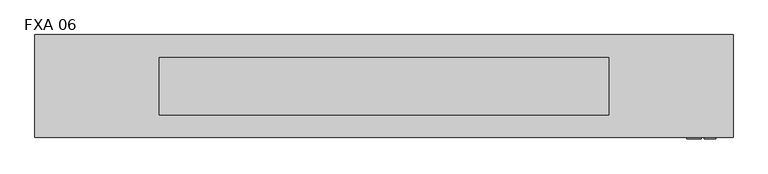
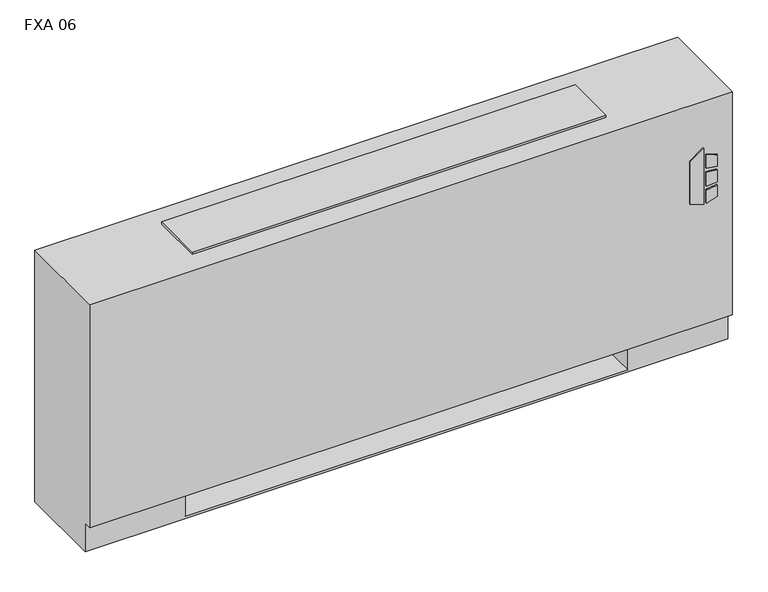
"""IFC4 building model written with IfcOpenShell, lengths in millimetres: proxy geometry, Vertical_Fan_Coil_Unit_-_FXA_-_IEC_-_4-Pipe_TS-FR_RH_2022 : FXA 06."""

import ifcopenshell
import ifcopenshell.guid

model = None  # the IFC model being written
_history = None  # IfcOwnerHistory: only IFC2X3 demands one
_inside = {}  # id of a spatial element -> (the spatial element, [elements in it])
_under = {}  # id of a project, library or spatial element -> (it, [spatial elements below it])
_declared = {}  # id of a project -> (the project, [libraries it declares])
_typed = {}  # id of a type object -> (the type object, [elements of that type])
_made_of = {}  # id of a material, layer set ... -> (it, [elements and type objects made of it])


def new_model(schema):
    """Start an empty IFC model of exactly this schema.

    Asked for "IFC4X3", IfcOpenShell would pick the latest addendum, in which some entities
    have other attributes; the version numbers below select the first issue.
    IFC2X3 requires an IfcOwnerHistory on every rooted entity: one is made here for all.
    """
    global model, _history
    if schema == "IFC4X3":
        model = ifcopenshell.file(schema_version=(4, 3, 0, 0))
    else:
        model = ifcopenshell.file(schema=schema)
    _inside.clear()
    _under.clear()
    _declared.clear()
    _typed.clear()
    _made_of.clear()
    _history = None
    if model.schema == "IFC2X3":
        org = make("IfcOrganization", Name="unknown")
        user = make(
            "IfcPersonAndOrganization",
            ThePerson=make("IfcPerson", FamilyName="unknown"),
            TheOrganization=org,
        )
        app = make(
            "IfcApplication",
            ApplicationDeveloper=org,
            Version="unknown",
            ApplicationFullName="unknown",
            ApplicationIdentifier="unknown",
        )
        _history = make(
            "IfcOwnerHistory",
            OwningUser=user,
            OwningApplication=app,
            ChangeAction="ADDED",
            CreationDate=0,
        )
    return model


def make(cls, **values):
    """One entity of the class cls with the attributes given. An attribute that is None is left unset."""
    return model.create_entity(
        cls, **{name: value for name, value in values.items() if value is not None}
    )


def rooted(cls, **values):
    """An entity with a GlobalId (a new one), such as an element, a storey or a relation."""
    return make(cls, GlobalId=ifcopenshell.guid.new(), OwnerHistory=_history, **values)


def si_unit(unit_type, name, prefix=None):
    """IfcSIUnit, for example si_unit("LENGTHUNIT", "METRE", prefix="MILLI")."""
    return make("IfcSIUnit", UnitType=unit_type, Prefix=prefix, Name=name)


def assignment(units):
    """IfcUnitAssignment: the units of a project."""
    return None if units is None else make("IfcUnitAssignment", Units=units)


def point(xyz):
    """IfcCartesianPoint."""
    return None if xyz is None else make("IfcCartesianPoint", Coordinates=xyz)


def direction(xyz):
    """IfcDirection."""
    return None if xyz is None else make("IfcDirection", DirectionRatios=xyz)


def frame(location, z_axis=None, x_axis=None):
    """IfcAxis2Placement3D, a coordinate frame: its origin and axes. An axis left out is left unset."""
    return make(
        "IfcAxis2Placement3D",
        Location=point(location),
        Axis=direction(z_axis),
        RefDirection=direction(x_axis),
    )


def frame_2d(location, x_axis=None):
    """IfcAxis2Placement2D, a coordinate frame in the plane: its origin and x axis."""
    return make(
        "IfcAxis2Placement2D", Location=point(location), RefDirection=direction(x_axis)
    )


def origin():
    """The frame at (0, 0, 0) with its axes left unset."""
    return frame((0.0, 0.0, 0.0))


def place(relative_to, where):
    """IfcLocalPlacement: puts the frame where relative to a parent placement (None: the world)."""
    return make(
        "IfcLocalPlacement", PlacementRelTo=relative_to, RelativePlacement=where
    )


def context(
    kind, dimensions, precision=None, world=None, true_north=None, identifier=None
):
    """IfcGeometricRepresentationContext, for example the 3D "Model" context."""
    return make(
        "IfcGeometricRepresentationContext",
        ContextIdentifier=identifier,
        ContextType=kind,
        CoordinateSpaceDimension=dimensions,
        Precision=precision,
        WorldCoordinateSystem=world,
        TrueNorth=true_north,
    )


def project(units=None, contexts=None):
    """IfcProject with its units and contexts."""
    return rooted(
        "IfcProject",
        Name="project",
        RepresentationContexts=contexts,
        UnitsInContext=assignment(units),
    )


def spatial(cls, under=None, at=None, **own):
    """A site, building, storey or space (cls), placed at a placement, below another one or the project."""
    s = rooted(cls, ObjectPlacement=at, **own)
    if under is not None:
        _under.setdefault(under.id(), (under, []))[1].append(s)
    return s


def polyline(points):
    """IfcPolyline through the points."""
    return make("IfcPolyline", Points=[point(p) for p in points])


def circle_curve(where, radius):
    """IfcCircle in the frame where."""
    return make("IfcCircle", Position=where, Radius=radius)


def trimmed(basis, trim1, trim2, sense, master):
    """IfcTrimmedCurve: the piece of a basis curve between two trims."""
    return make(
        "IfcTrimmedCurve",
        BasisCurve=basis,
        Trim1=trim1,
        Trim2=trim2,
        SenseAgreement=sense,
        MasterRepresentation=master,
    )


def segment(curve, same_sense, transition):
    """IfcCompositeCurveSegment."""
    return make(
        "IfcCompositeCurveSegment",
        Transition=transition,
        SameSense=same_sense,
        ParentCurve=curve,
    )


def composite_curve(segments, self_intersect=None):
    """IfcCompositeCurve: segments joined end to end."""
    return make("IfcCompositeCurve", Segments=segments, SelfIntersect=self_intersect)


def outline(outer, holes=None, kind="AREA"):
    """IfcArbitraryClosedProfileDef: a profile drawn as a closed curve; with holes, ...WithVoids."""
    if holes is None:
        return make("IfcArbitraryClosedProfileDef", ProfileType=kind, OuterCurve=outer)
    return make(
        "IfcArbitraryProfileDefWithVoids",
        ProfileType=kind,
        OuterCurve=outer,
        InnerCurves=holes,
    )


def extrude(swept, where, along, depth):
    """IfcExtrudedAreaSolid: the profile swept, set in the frame where, extruded along a direction by depth."""
    return make(
        "IfcExtrudedAreaSolid",
        SweptArea=swept,
        Position=where,
        ExtrudedDirection=direction(along),
        Depth=depth,
    )


def shape(context_of_items, identifier, shape_type, items):
    """IfcShapeRepresentation: the items that make up one representation, for example the "Body"."""
    return make(
        "IfcShapeRepresentation",
        ContextOfItems=context_of_items,
        RepresentationIdentifier=identifier,
        RepresentationType=shape_type,
        Items=items,
    )


def source(mapping_origin, context_of_items, identifier, shape_type, items):
    """IfcRepresentationMap: a shape defined once, which mapped items show again and again."""
    return make(
        "IfcRepresentationMap",
        MappingOrigin=mapping_origin,
        MappedRepresentation=shape(context_of_items, identifier, shape_type, items),
    )


def transform(
    local_origin,
    x_axis=None,
    y_axis=None,
    z_axis=None,
    scale=None,
    scale2=None,
    scale3=None,
    uniform=True,
):
    """IfcCartesianTransformationOperator3D, or its non-uniform kind. x_axis, y_axis, z_axis: its Axis1, 2, 3."""
    if uniform:
        return make(
            "IfcCartesianTransformationOperator3D",
            Axis1=direction(x_axis),
            Axis2=direction(y_axis),
            LocalOrigin=point(local_origin),
            Scale=scale,
            Axis3=direction(z_axis),
        )
    return make(
        "IfcCartesianTransformationOperator3DnonUniform",
        Axis1=direction(x_axis),
        Axis2=direction(y_axis),
        LocalOrigin=point(local_origin),
        Scale=scale,
        Axis3=direction(z_axis),
        Scale2=scale2,
        Scale3=scale3,
    )


def mapped(mapping_source, mapping_target):
    """IfcMappedItem: shows the shape of a source again, moved by a transform."""
    return make(
        "IfcMappedItem", MappingSource=mapping_source, MappingTarget=mapping_target
    )


def made_of(thing, what):
    """Note that an element or type object is made of a material, layer set ...; save() writes the relation."""
    if what is not None:
        _made_of.setdefault(what.id(), (what, []))[1].append(thing)
    return thing


def element(
    cls,
    number,
    at=None,
    inside=None,
    cuts=None,
    type_object=None,
    material=None,
    context=None,
    identifier="Body",
    shape_type=None,
    held_by="IfcProductDefinitionShape",
    body=None,
    shapes=None,
    **own,
):
    """One element of the class cls, such as IfcWall. Its Tag is "e" and its number.

    at: its placement. inside: the storey or other place that contains it. cuts: it is an
    opening in that element (IfcRelVoidsElement). A single representation is given by context,
    identifier, shape_type and body (its items); several are given by shapes. held_by: the class
    of the entity that holds the representations. save() writes the other relations.
    """
    e = rooted(cls, Tag="e%d" % number, ObjectPlacement=at, **own)
    if body is not None:
        shapes = [shape(context, identifier, shape_type, body)]
    if shapes is not None:
        e.Representation = make(held_by, Representations=shapes)
    if inside is not None:
        _inside.setdefault(inside.id(), (inside, []))[1].append(e)
    if cuts is not None:
        rooted(
            "IfcRelVoidsElement", RelatingBuildingElement=cuts, RelatedOpeningElement=e
        )
    if type_object is not None:
        _typed.setdefault(type_object.id(), (type_object, []))[1].append(e)
    return made_of(e, material)


def aggregate(whole, parts):
    """IfcRelAggregates: a whole, such as a stair, and the parts it consists of."""
    return rooted("IfcRelAggregates", RelatingObject=whole, RelatedObjects=parts)


def save(model, path):
    """Write the relations noted so far, then the file.

    IfcRelAggregates (storeys below a building ...), IfcRelContainedInSpatialStructure (elements
    in a storey), IfcRelDefinesByType, IfcRelAssociatesMaterial and IfcRelDeclares: one each for
    every whole, place, type object, material and project.
    """
    for whole, parts in _under.values():
        aggregate(whole, parts)
    for where, things in _inside.values():
        rooted(
            "IfcRelContainedInSpatialStructure",
            RelatedElements=things,
            RelatingStructure=where,
        )
    for kind, things in _typed.values():
        rooted("IfcRelDefinesByType", RelatedObjects=things, RelatingType=kind)
    for what, things in _made_of.values():
        rooted("IfcRelAssociatesMaterial", RelatedObjects=things, RelatingMaterial=what)
    for by, libraries in _declared.values():
        rooted("IfcRelDeclares", RelatingContext=by, RelatedDefinitions=libraries)
    model.write(path)


def plane_surface(at):
    """IfcPlane: the flat surface through the origin of the frame at, square to its z axis."""
    return make("IfcPlane", Position=at)


def revolved_surface(curve, axis_point, axis_direction):
    """IfcSurfaceOfRevolution: the curve turned about the line through axis_point along axis_direction."""
    return make(
        "IfcSurfaceOfRevolution",
        SweptCurve=make("IfcArbitraryOpenProfileDef", ProfileType="CURVE", Curve=curve),
        AxisPosition=make("IfcAxis1Placement", Location=point(axis_point), Axis=direction(axis_direction)),
    )


def advanced_brep(points, edges, surfaces, faces):
    """IfcAdvancedBrep: a solid bounded by faces that lie on surfaces and meet in shared edges.

    An edge is (start, end): straight between two places in points (the first is 0);
    or (start, end, curve); or (start, end, curve, False) where it runs against its curve.
    A face is (place in surfaces, loops), or (place, loops, False) where it looks against
    its surface's normal. A loop lists edges by number (the first is 1), with a minus sign
    where the edge is run from its end to its start. The first loop is the outer one.
    """
    corners = [point(p) for p in points]
    vertices = [make("IfcVertexPoint", VertexGeometry=c) for c in corners]
    made = []
    for start, end, *more in edges:
        made.append(
            make(
                "IfcEdgeCurve",
                EdgeStart=vertices[start],
                EdgeEnd=vertices[end],
                EdgeGeometry=more[0] if more else make("IfcPolyline", Points=[corners[start], corners[end]]),
                SameSense=more[1] if len(more) > 1 else True,
            )
        )
    hull = []
    for where, loops, *sense in faces:
        bounds = []
        for j, loop in enumerate(loops):
            ring = [make("IfcOrientedEdge", EdgeElement=made[abs(k) - 1], Orientation=k > 0) for k in loop]
            bounds.append(
                make(
                    "IfcFaceOuterBound" if j == 0 else "IfcFaceBound",
                    Bound=make("IfcEdgeLoop", EdgeList=ring),
                    Orientation=True,
                )
            )
        hull.append(make("IfcAdvancedFace", Bounds=bounds, FaceSurface=surfaces[where], SameSense=sense[0] if sense else True))
    return make("IfcAdvancedBrep", Outer=make("IfcClosedShell", CfsFaces=hull))


def fxa_06_2113a199(model_context):
    return source(origin(), model_context, "Body", "SolidModel", [
        extrude(outline(polyline([(391.6086829, 823.9868862), (381.6606126, 856.1602728), (523.831537, 856.1602728), (500.8095309, 823.9868862), (391.6086829, 823.9868862)])), frame((0.0, 12.7, 0.0), z_axis=(0.0, 1.0, 0.0), x_axis=(0.0, 0.0, 1.0)), (0.0, 0.0, 1.0), 3.175),
        extrude(outline(polyline([(470.6079683, 862.9186058), (467.4055757, 889.0), (496.6344168, 889.0), (504.6988318, 862.9186058), (470.6079683, 862.9186058)])), frame((0.0, 12.7, 0.0), z_axis=(0.0, 1.0, 0.0), x_axis=(0.0, 0.0, 1.0)), (0.0, 0.0, 1.0), 3.175),
        extrude(outline(polyline([(418.7444414, 889.0), (415.0789404, 862.9186058), (381.6606126, 862.9186058), (390.2948498, 889.0), (418.7444414, 889.0)])), frame((0.0, 12.7, 0.0), z_axis=(0.0, 1.0, 0.0), x_axis=(0.0, 0.0, 1.0)), (0.0, 0.0, 1.0), 3.175),
        extrude(outline(polyline([(458.0596028, 889.0), (460.3414292, 862.9186058), (424.4038806, 862.9186058), (427.1451456, 889.0), (458.0596028, 889.0)])), frame((0.0, 12.7, 0.0), z_axis=(0.0, 1.0, 0.0), x_axis=(0.0, 0.0, 1.0)), (0.0, 0.0, 1.0), 3.175),
        extrude(outline(polyline([(-501.65, 81.534), (-501.65, 223.266), (-381.0, 223.266), (-381.0, 81.534), (-501.65, 81.534)])), frame((0.0, 0.0, 327.025), z_axis=(0.0, 0.0, 1.0), x_axis=(1.0, 0.0, 0.0)), (0.0, 0.0, 1.0), 260.35),
        extrude(outline(composite_curve([segment(trimmed(circle_curve(frame_2d((749.3, 130.175)), 9.525), [point((739.775, 130.175))], [point((758.825, 130.175))], False, "CARTESIAN"), True, "CONTINUOUS"), segment(trimmed(circle_curve(frame_2d((749.3, 130.175)), 9.525), [point((758.825, 130.175))], [point((739.775, 130.175))], False, "CARTESIAN"), True, "CONTINUOUS")], self_intersect=False)), frame((0.0, 0.0, 101.6), z_axis=(0.0, 0.0, 1.0), x_axis=(1.0, 0.0, 0.0)), (0.0, 0.0, 1.0), 25.4),
        extrude(outline(polyline([(844.55, 196.85), (844.55, 63.5), (685.8, 63.5), (685.8, 196.85), (844.55, 196.85)])), frame((0.0, 0.0, 127.0), z_axis=(0.0, 0.0, 1.0), x_axis=(1.0, 0.0, 0.0)), (0.0, 0.0, 1.0), 50.8),
        extrude(outline(composite_curve([segment(trimmed(circle_curve(frame_2d((107.95, 457.2)), 7.9375), [point((107.95, 465.1375))], [point((107.95, 449.2625))], False, "CARTESIAN"), True, "CONTINUOUS"), segment(trimmed(circle_curve(frame_2d((107.95, 457.2)), 7.9375), [point((107.95, 449.2625))], [point((107.95, 465.1375))], False, "CARTESIAN"), True, "CONTINUOUS")], self_intersect=False)), frame((685.8, 0.0, 0.0), z_axis=(1.0, 0.0, 0.0), x_axis=(0.0, 1.0, 0.0)), (0.0, 0.0, 1.0), 50.8),
        extrude(outline(composite_curve([segment(trimmed(circle_curve(frame_2d((155.575, 431.8)), 7.9375), [point((155.575, 439.7375))], [point((155.575, 423.8625))], False, "CARTESIAN"), True, "CONTINUOUS"), segment(trimmed(circle_curve(frame_2d((155.575, 431.8)), 7.9375), [point((155.575, 423.8625))], [point((155.575, 439.7375))], False, "CARTESIAN"), True, "CONTINUOUS")], self_intersect=False)), frame((685.8, 0.0, 0.0), z_axis=(1.0, 0.0, 0.0), x_axis=(0.0, 1.0, 0.0)), (0.0, 0.0, 1.0), 50.8),
        extrude(outline(composite_curve([segment(trimmed(circle_curve(frame_2d((130.175, 554.99)), 7.9502), [point((130.175, 562.9402))], [point((130.175, 547.0398))], False, "CARTESIAN"), True, "CONTINUOUS"), segment(trimmed(circle_curve(frame_2d((130.175, 554.99)), 7.9502), [point((130.175, 547.0398))], [point((130.175, 562.9402))], False, "CARTESIAN"), True, "CONTINUOUS")], self_intersect=False)), frame((685.8, 0.0, 0.0), z_axis=(1.0, 0.0, 0.0), x_axis=(0.0, 1.0, 0.0)), (0.0, 0.0, 1.0), 50.8),
        extrude(outline(composite_curve([segment(trimmed(circle_curve(frame_2d((53.975, 416.56)), 7.9502), [point((53.975, 424.5102))], [point((53.975, 408.6098))], False, "CARTESIAN"), True, "CONTINUOUS"), segment(trimmed(circle_curve(frame_2d((53.975, 416.56)), 7.9502), [point((53.975, 408.6098))], [point((53.975, 424.5102))], False, "CARTESIAN"), True, "CONTINUOUS")], self_intersect=False)), frame((685.8, 0.0, 0.0), z_axis=(1.0, 0.0, 0.0), x_axis=(0.0, 1.0, 0.0)), (0.0, 0.0, 1.0), 50.8),
        advanced_brep(
        [(927.1, 244.475, 641.35), (-622.3, 244.475, 641.35), (-622.3, 15.875, 641.35), (927.1, 15.875, 641.35), (-622.3, 244.475, 0.0), (927.1, 244.475, 0.0), (927.1, 34.925, 0.0), (-622.3, 34.925, 0.0), (685.8, 244.475, 73.025), (914.4, 244.475, 73.025), (914.4, 244.475, 628.65), (685.8, 244.475, 628.65), (685.8, 244.475, 414.8650565), (714.375, 244.475, 414.8650565), (714.375, 244.475, 385.2349435), (685.8, 244.475, 385.2349435), (685.8, 244.475, 287.3375), (714.375, 244.475, 287.3375), (714.375, 244.475, 258.7625), (685.8, 244.475, 258.7625), (685.8, 244.475, 141.2875), (714.375, 244.475, 141.2875), (714.375, 244.475, 112.7125), (685.8, 244.475, 112.7125), (-381.0, 244.475, 628.65), (-609.6, 244.475, 628.65), (-609.6, 244.475, 73.025), (-381.0, 244.475, 73.025), (-381.0, 244.475, 112.7125), (-409.575, 244.475, 112.7125), (-409.575, 244.475, 141.2875), (-381.0, 244.475, 141.2875), (-381.0, 244.475, 258.7625), (-409.575, 244.475, 258.7625), (-409.575, 244.475, 287.3375), (-381.0, 244.475, 287.3375), (-381.0, 244.475, 385.2349435), (-409.575, 244.475, 385.2349435), (-409.575, 244.475, 414.8650565), (-381.0, 244.475, 414.8650565), (704.0626, 244.475, 127.0), (692.9374, 244.475, 127.0), (704.0626, 244.475, 400.05), (692.9374, 244.475, 400.05), (704.0626, 244.475, 273.05), (692.9374, 244.475, 273.05), (-388.1374, 244.475, 127.0), (-399.2626, 244.475, 127.0), (-388.1374, 244.475, 273.05), (-399.2626, 244.475, 273.05), (-388.1374, 244.475, 400.05), (-399.2626, 244.475, 400.05), (-622.3, 34.925, 73.025), (-622.3, 15.875, 73.025), (927.1, 15.875, 73.025), (927.1, 34.925, 73.025), (-381.0, 34.925, 73.025), (-381.0, 219.075, 73.025), (685.8, 219.075, 73.025), (685.8, 34.925, 73.025), (685.8, 34.925, 6.35), (-381.0, 34.925, 6.35), (685.8, 41.275, 628.65), (914.4, 41.275, 628.65), (914.4, 41.275, 73.025), (685.8, 41.275, 73.025), (-381.0, 41.275, 628.65), (-381.0, 41.275, 73.025), (-609.6, 41.275, 73.025), (-609.6, 41.275, 628.65), (685.8, 219.075, 73.025), (685.8, 238.125, 112.7125), (685.8, 238.125, 141.2875), (685.8, 238.125, 258.7625), (685.8, 238.125, 287.3375), (685.8, 238.125, 385.2349435), (685.8, 238.125, 414.8650565), (-381.0, 219.075, 73.025), (-381.0, 238.125, 414.8650565), (-381.0, 238.125, 385.2349435), (-381.0, 238.125, 287.3375), (-381.0, 238.125, 258.7625), (-381.0, 238.125, 141.2875), (-381.0, 238.125, 112.7125), (-381.0, 219.075, 6.35), (685.8, 219.075, 6.35), (714.375, 238.125, 112.7125), (714.375, 238.125, 141.2875), (692.9374, 238.125, 127.0), (704.0626, 238.125, 127.0), (714.375, 238.125, 258.7625), (714.375, 238.125, 287.3375), (692.9374, 238.125, 273.05), (704.0626, 238.125, 273.05), (714.375, 238.125, 385.2349435), (714.375, 238.125, 414.8650565), (692.9374, 238.125, 400.05), (704.0626, 238.125, 400.05), (-409.575, 238.125, 141.2875), (-409.575, 238.125, 112.7125), (-399.2626, 238.125, 127.0), (-388.1374, 238.125, 127.0), (-409.575, 238.125, 287.3375), (-409.575, 238.125, 258.7625), (-399.2626, 238.125, 273.05), (-388.1374, 238.125, 273.05), (-409.575, 238.125, 414.8650565), (-409.575, 238.125, 385.2349435), (-399.2626, 238.125, 400.05), (-388.1374, 238.125, 400.05)],
        [
            (0, 1),
            (1, 2),
            (2, 3),
            (3, 0),
            (4, 5),
            (5, 6),
            (6, 7),
            (7, 4),
            (0, 5),
            (4, 1),
            (8, 9),
            (9, 10),
            (10, 11),
            (11, 12),
            (12, 13),
            (13, 14),
            (14, 15),
            (15, 16),
            (16, 17),
            (17, 18),
            (18, 19),
            (19, 20),
            (20, 21),
            (21, 22),
            (22, 23),
            (23, 8),
            (24, 25),
            (25, 26),
            (26, 27),
            (27, 28),
            (28, 29),
            (29, 30),
            (30, 31),
            (31, 32),
            (32, 33),
            (33, 34),
            (34, 35),
            (35, 36),
            (36, 37),
            (37, 38),
            (38, 39),
            (39, 24),
            (40, 41, circle_curve(frame((698.5, 244.475, 127.0), z_axis=(0.0, -1.0, 0.0), x_axis=(-1.0, 0.0, 0.0)), 5.5626)),
            (41, 40, circle_curve(frame((698.5, 244.475, 127.0), z_axis=(0.0, -1.0, 0.0), x_axis=(-1.0, 0.0, 0.0)), 5.5626)),
            (42, 43, circle_curve(frame((698.5, 244.475, 400.05), z_axis=(0.0, -1.0, 0.0), x_axis=(-1.0, 0.0, 0.0)), 5.5626)),
            (43, 42, circle_curve(frame((698.5, 244.475, 400.05), z_axis=(0.0, -1.0, 0.0), x_axis=(-1.0, 0.0, 0.0)), 5.5626)),
            (44, 45, circle_curve(frame((698.5, 244.475, 273.05), z_axis=(0.0, -1.0, 0.0), x_axis=(-1.0, 0.0, 0.0)), 5.5626)),
            (45, 44, circle_curve(frame((698.5, 244.475, 273.05), z_axis=(0.0, -1.0, 0.0), x_axis=(-1.0, 0.0, 0.0)), 5.5626)),
            (46, 47, circle_curve(frame((-393.7, 244.475, 127.0), z_axis=(0.0, -1.0, 0.0), x_axis=(-1.0, 0.0, 0.0)), 5.5626)),
            (47, 46, circle_curve(frame((-393.7, 244.475, 127.0), z_axis=(0.0, -1.0, 0.0), x_axis=(-1.0, 0.0, 0.0)), 5.5626)),
            (48, 49, circle_curve(frame((-393.7, 244.475, 273.05), z_axis=(0.0, -1.0, 0.0), x_axis=(-1.0, 0.0, 0.0)), 5.5626)),
            (49, 48, circle_curve(frame((-393.7, 244.475, 273.05), z_axis=(0.0, -1.0, 0.0), x_axis=(-1.0, 0.0, 0.0)), 5.5626)),
            (50, 51, circle_curve(frame((-393.7, 244.475, 400.05), z_axis=(0.0, -1.0, 0.0), x_axis=(-1.0, 0.0, 0.0)), 5.5626)),
            (51, 50, circle_curve(frame((-393.7, 244.475, 400.05), z_axis=(0.0, -1.0, 0.0), x_axis=(-1.0, 0.0, 0.0)), 5.5626)),
            (7, 52),
            (52, 53),
            (53, 2),
            (53, 54),
            (54, 3),
            (54, 55),
            (55, 6),
            (52, 56),
            (56, 57),
            (57, 58),
            (58, 59),
            (59, 55),
            (59, 60),
            (60, 61),
            (61, 56),
            (62, 63),
            (63, 64),
            (64, 65),
            (65, 62),
            (66, 67),
            (67, 68),
            (68, 69),
            (69, 66),
            (65, 70),
            (70, 8),
            (23, 71),
            (71, 72),
            (72, 20),
            (19, 73),
            (73, 74),
            (74, 16),
            (15, 75),
            (75, 76),
            (76, 12),
            (11, 62),
            (64, 9),
            (63, 10),
            (69, 25),
            (24, 66),
            (68, 26),
            (67, 77),
            (77, 27),
            (39, 78),
            (78, 79),
            (79, 36),
            (35, 80),
            (80, 81),
            (81, 32),
            (31, 82),
            (82, 83),
            (83, 28),
            (57, 84),
            (84, 85),
            (85, 58),
            (85, 60),
            (84, 61),
            (71, 86),
            (86, 87),
            (87, 72),
            (88, 89, circle_curve(frame((698.5, 238.125, 127.0), z_axis=(0.0, 1.0, 0.0), x_axis=(-1.0, 0.0, 0.0)), 5.5626)),
            (89, 88, circle_curve(frame((698.5, 238.125, 127.0), z_axis=(0.0, 1.0, 0.0), x_axis=(-1.0, 0.0, 0.0)), 5.5626)),
            (73, 90),
            (90, 91),
            (91, 74),
            (92, 93, circle_curve(frame((698.5, 238.125, 273.05), z_axis=(0.0, 1.0, 0.0), x_axis=(-1.0, 0.0, 0.0)), 5.5626)),
            (93, 92, circle_curve(frame((698.5, 238.125, 273.05), z_axis=(0.0, 1.0, 0.0), x_axis=(-1.0, 0.0, 0.0)), 5.5626)),
            (75, 94),
            (94, 95),
            (95, 76),
            (96, 97, circle_curve(frame((698.5, 238.125, 400.05), z_axis=(0.0, 1.0, 0.0), x_axis=(-1.0, 0.0, 0.0)), 5.5626)),
            (97, 96, circle_curve(frame((698.5, 238.125, 400.05), z_axis=(0.0, 1.0, 0.0), x_axis=(-1.0, 0.0, 0.0)), 5.5626)),
            (98, 99),
            (99, 83),
            (82, 98),
            (100, 101, circle_curve(frame((-393.7, 238.125, 127.0), z_axis=(0.0, 1.0, 0.0), x_axis=(-1.0, 0.0, 0.0)), 5.5626)),
            (101, 100, circle_curve(frame((-393.7, 238.125, 127.0), z_axis=(0.0, 1.0, 0.0), x_axis=(-1.0, 0.0, 0.0)), 5.5626)),
            (102, 103),
            (103, 81),
            (80, 102),
            (104, 105, circle_curve(frame((-393.7, 238.125, 273.05), z_axis=(0.0, 1.0, 0.0), x_axis=(-1.0, 0.0, 0.0)), 5.5626)),
            (105, 104, circle_curve(frame((-393.7, 238.125, 273.05), z_axis=(0.0, 1.0, 0.0), x_axis=(-1.0, 0.0, 0.0)), 5.5626)),
            (106, 107),
            (107, 79),
            (78, 106),
            (108, 109, circle_curve(frame((-393.7, 238.125, 400.05), z_axis=(0.0, 1.0, 0.0), x_axis=(-1.0, 0.0, 0.0)), 5.5626)),
            (109, 108, circle_curve(frame((-393.7, 238.125, 400.05), z_axis=(0.0, 1.0, 0.0), x_axis=(-1.0, 0.0, 0.0)), 5.5626)),
            (87, 21),
            (86, 22),
            (91, 17),
            (90, 18),
            (95, 13),
            (94, 14),
            (30, 98),
            (99, 29),
            (34, 102),
            (103, 33),
            (38, 106),
            (107, 37),
            (88, 41),
            (40, 89),
            (96, 43),
            (42, 97),
            (92, 45),
            (44, 93),
            (100, 47),
            (46, 101),
            (104, 49),
            (48, 105),
            (108, 51),
            (50, 109),
        ],
        [
            plane_surface(frame((-622.3, 244.475, 641.35), z_axis=(0.0, 0.0, 1.0), x_axis=(-1.0, 0.0, 0.0))),
            plane_surface(frame((-622.3, 244.475, 0.0), z_axis=(0.0, 0.0, -1.0), x_axis=(1.0, 0.0, 0.0))),
            plane_surface(frame((927.1, 244.475, 641.35), z_axis=(0.0, 1.0, 0.0), x_axis=(0.0, 0.0, -1.0))),
            plane_surface(frame((-622.3, 244.475, 641.35), z_axis=(-1.0, 0.0, 0.0), x_axis=(0.0, 0.0, -1.0))),
            plane_surface(frame((-622.3, 15.875, 641.35), z_axis=(0.0, -1.0, 0.0), x_axis=(0.0, 0.0, -1.0))),
            plane_surface(frame((927.1, 15.875, 641.35), z_axis=(1.0, 0.0, 0.0), x_axis=(0.0, 0.0, -1.0))),
            plane_surface(frame((-622.3, 15.875, 73.025), z_axis=(0.0, 0.0, -1.0), x_axis=(1.0, 0.0, 0.0))),
            plane_surface(frame((-622.3, 34.925, 73.025), z_axis=(0.0, -1.0, 0.0), x_axis=(1.0, 0.0, 0.0))),
            plane_surface(frame((685.8, 41.275, 628.65), z_axis=(0.0, 1.0, 0.0), x_axis=(0.0, 0.0, -1.0))),
            plane_surface(frame((685.8, 41.275, 628.65), z_axis=(1.0, 0.0, 0.0), x_axis=(0.0, 1.0, 0.0))),
            plane_surface(frame((685.8, 41.275, 73.025), z_axis=(0.0, 0.0, 1.0), x_axis=(0.0, 1.0, 0.0))),
            plane_surface(frame((914.4, 41.275, 73.025), z_axis=(-1.0, 0.0, 0.0), x_axis=(0.0, 1.0, 0.0))),
            plane_surface(frame((914.4, 41.275, 628.65), z_axis=(0.0, 0.0, -1.0), x_axis=(0.0, 1.0, 0.0))),
            plane_surface(frame((-381.0, 41.275, 628.65), z_axis=(0.0, 0.0, -1.0), x_axis=(0.0, 1.0, 0.0))),
            plane_surface(frame((-609.6, 41.275, 628.65), z_axis=(1.0, 0.0, 0.0), x_axis=(0.0, 1.0, 0.0))),
            plane_surface(frame((-609.6, 41.275, 73.025), z_axis=(0.0, 0.0, 1.0), x_axis=(0.0, 1.0, 0.0))),
            plane_surface(frame((-381.0, 41.275, 73.025), z_axis=(-1.0, 0.0, 0.0), x_axis=(0.0, 1.0, 0.0))),
            plane_surface(frame((685.8, 219.075, 73.025), z_axis=(0.0, -1.0, 0.0), x_axis=(0.0, 0.0, -1.0))),
            plane_surface(frame((685.8, 219.075, 73.025), z_axis=(-1.0, 0.0, 0.0), x_axis=(0.0, -1.0, 0.0))),
            plane_surface(frame((685.8, 219.075, 6.35), z_axis=(0.0, 0.0, 1.0), x_axis=(0.0, -1.0, 0.0))),
            plane_surface(frame((-381.0, 219.075, 6.35), z_axis=(1.0, 0.0, 0.0), x_axis=(0.0, -1.0, 0.0))),
            plane_surface(frame((714.375, 238.125, 141.2875), z_axis=(0.0, -1.0, 0.0), x_axis=(-1.0, 0.0, 0.0))),
            plane_surface(frame((685.8, 244.475, 141.2875), z_axis=(0.0, 0.0, 1.0), x_axis=(0.0, -1.0, 0.0))),
            plane_surface(frame((714.375, 244.475, 141.2875), z_axis=(1.0, 0.0, 0.0), x_axis=(0.0, -1.0, 0.0))),
            plane_surface(frame((714.375, 244.475, 112.7125), z_axis=(0.0, 0.0, -1.0), x_axis=(0.0, -1.0, 0.0))),
            plane_surface(frame((685.8, 244.475, 287.3375), z_axis=(0.0, 0.0, 1.0), x_axis=(0.0, -1.0, 0.0))),
            plane_surface(frame((714.375, 244.475, 287.3375), z_axis=(1.0, 0.0, 0.0), x_axis=(0.0, -1.0, 0.0))),
            plane_surface(frame((714.375, 244.475, 258.7625), z_axis=(0.0, 0.0, -1.0), x_axis=(0.0, -1.0, 0.0))),
            plane_surface(frame((685.8, 244.475, 414.8650565), z_axis=(0.0, 0.0, 1.0), x_axis=(0.0, -1.0, 0.0))),
            plane_surface(frame((714.375, 244.475, 414.8650565), z_axis=(1.0, 0.0, 0.0), x_axis=(0.0, -1.0, 0.0))),
            plane_surface(frame((714.375, 244.475, 385.2349435), z_axis=(0.0, 0.0, -1.0), x_axis=(0.0, -1.0, 0.0))),
            plane_surface(frame((-409.575, 244.475, 141.2875), z_axis=(0.0, 0.0, 1.0), x_axis=(0.0, -1.0, 0.0))),
            plane_surface(frame((-381.0, 244.475, 112.7125), z_axis=(0.0, 0.0, -1.0), x_axis=(0.0, -1.0, 0.0))),
            plane_surface(frame((-409.575, 244.475, 112.7125), z_axis=(-1.0, 0.0, 0.0), x_axis=(0.0, -1.0, 0.0))),
            plane_surface(frame((-409.575, 244.475, 287.3375), z_axis=(0.0, 0.0, 1.0), x_axis=(0.0, -1.0, 0.0))),
            plane_surface(frame((-381.0, 244.475, 258.7625), z_axis=(0.0, 0.0, -1.0), x_axis=(0.0, -1.0, 0.0))),
            plane_surface(frame((-409.575, 244.475, 258.7625), z_axis=(-1.0, 0.0, 0.0), x_axis=(0.0, -1.0, 0.0))),
            plane_surface(frame((-409.575, 244.475, 414.8650565), z_axis=(0.0, 0.0, 1.0), x_axis=(0.0, -1.0, 0.0))),
            plane_surface(frame((-381.0, 244.475, 385.2349435), z_axis=(0.0, 0.0, -1.0), x_axis=(0.0, -1.0, 0.0))),
            plane_surface(frame((-409.575, 244.475, 385.2349435), z_axis=(-1.0, 0.0, 0.0), x_axis=(0.0, -1.0, 0.0))),
            revolved_surface(polyline([(692.9374, 238.125, 127.0), (692.9374, 244.475, 127.0)]), (698.5, 244.475, 127.0), (0.0, -1.0, 0.0)),
            revolved_surface(polyline([(692.9374, 238.125, 400.05), (692.9374, 244.475, 400.05)]), (698.5, 244.475, 400.05), (0.0, -1.0, 0.0)),
            revolved_surface(polyline([(692.9374, 238.125, 273.05), (692.9374, 244.475, 273.05)]), (698.5, 244.475, 273.05), (0.0, -1.0, 0.0)),
            revolved_surface(polyline([(-399.26259999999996, 238.125, 127.0), (-399.26259999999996, 244.475, 127.0)]), (-393.7, 244.475, 127.0), (0.0, -1.0, 0.0)),
            revolved_surface(polyline([(-399.26259999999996, 238.125, 273.05), (-399.26259999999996, 244.475, 273.05)]), (-393.7, 244.475, 273.05), (0.0, -1.0, 0.0)),
            revolved_surface(polyline([(-399.26259999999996, 238.125, 400.05), (-399.26259999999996, 244.475, 400.05)]), (-393.7, 244.475, 400.05), (0.0, -1.0, 0.0)),
        ],
        [
            (0, [[1, 2, 3, 4]]),
            (1, [[5, 6, 7, 8]]),
            (2, [[-1, 9, -5, 10], [11, 12, 13, 14, 15, 16, 17, 18, 19, 20, 21, 22, 23, 24, 25, 26], [27, 28, 29, 30, 31, 32, 33, 34, 35, 36, 37, 38, 39, 40, 41, 42], [43, 44], [45, 46], [47, 48], [49, 50], [51, 52], [53, 54]]),
            (3, [[-2, -10, -8, 55, 56, 57]]),
            (4, [[-3, -57, 58, 59]]),
            (5, [[-4, -59, 60, 61, -6, -9]]),
            (6, [[-56, 62, 63, 64, 65, 66, -60, -58]]),
            (7, [[-7, -61, -66, 67, 68, 69, -62, -55]]),
            (8, [[70, 71, 72, 73]]),
            (8, [[74, 75, 76, 77]]),
            (9, [[-73, 78, 79, -26, 80, 81, 82, -22, 83, 84, 85, -18, 86, 87, 88, -14, 89]]),
            (10, [[-72, 90, -11, -79, -78]]),
            (11, [[-71, 91, -12, -90]]),
            (12, [[-70, -89, -13, -91]]),
            (13, [[-77, 92, -27, 93]]),
            (14, [[-76, 94, -28, -92]]),
            (15, [[-75, 95, 96, -29, -94]]),
            (16, [[-74, -93, -42, 97, 98, 99, -38, 100, 101, 102, -34, 103, 104, 105, -30, -96, -95]]),
            (17, [[-64, 106, 107, 108]]),
            (18, [[-108, 109, -67, -65]]),
            (19, [[-107, 110, -68, -109]]),
            (20, [[-106, -63, -69, -110]]),
            (21, [[111, 112, 113, -81], [114, 115]]),
            (21, [[116, 117, 118, -84], [119, 120]]),
            (21, [[121, 122, 123, -87], [124, 125]]),
            (21, [[126, 127, -104, 128], [129, 130]]),
            (21, [[131, 132, -101, 133], [134, 135]]),
            (21, [[136, 137, -98, 138], [139, 140]]),
            (22, [[-113, 141, -23, -82]]),
            (23, [[-112, 142, -24, -141]]),
            (24, [[-111, -80, -25, -142]]),
            (25, [[-118, 143, -19, -85]]),
            (26, [[-117, 144, -20, -143]]),
            (27, [[-116, -83, -21, -144]]),
            (28, [[-123, 145, -15, -88]]),
            (29, [[-122, 146, -16, -145]]),
            (30, [[-121, -86, -17, -146]]),
            (31, [[-128, -103, -33, 147]]),
            (32, [[-127, 148, -31, -105]]),
            (33, [[-126, -147, -32, -148]]),
            (34, [[-133, -100, -37, 149]]),
            (35, [[-132, 150, -35, -102]]),
            (36, [[-131, -149, -36, -150]]),
            (37, [[-138, -97, -41, 151]]),
            (38, [[-137, 152, -39, -99]]),
            (39, [[-136, -151, -40, -152]]),
            (40, [[153, -43, 154, -114]]),
            (40, [[-153, -115, -154, -44]]),
            (41, [[155, -45, 156, -124]]),
            (41, [[-155, -125, -156, -46]]),
            (42, [[157, -47, 158, -119]]),
            (42, [[-157, -120, -158, -48]]),
            (43, [[159, -49, 160, -129]]),
            (43, [[-159, -130, -160, -50]]),
            (44, [[161, -51, 162, -134]]),
            (44, [[-161, -135, -162, -52]]),
            (45, [[163, -53, 164, -139]]),
            (45, [[-163, -140, -164, -54]]),
        ],
    ),
        extrude(outline(polyline([(650.875, 193.675), (650.875, 66.675), (-346.075, 66.675), (-346.075, 193.675), (650.875, 193.675)])), frame((0.0, 0.0, 641.35), z_axis=(0.0, 0.0, 1.0), x_axis=(1.0, 0.0, 0.0)), (0.0, 0.0, 1.0), 6.35),
    ])


if __name__ == "__main__":
    model = new_model("IFC4")
    model_context = context("Model", 3, world=origin())
    ifc_project = project(units=[si_unit("LENGTHUNIT", "METRE", prefix="MILLI")], contexts=[model_context])
    site = spatial("IfcSite", under=ifc_project)
    building = spatial("IfcBuilding", under=site)
    placement = place(None, origin())
    fxa_06_shape = fxa_06_2113a199(model_context)
    element("IfcBuildingElementProxy", 1, Name="Vertical_Fan_Coil_Unit_-_FXA_-_IEC_-_4-Pipe_TS-FR_RH_2022 : FXA 06", ObjectType="Vertical_Fan_Coil_Unit_-_FXA_-_IEC_-_4-Pipe_TS-FR_RH_2022 : FXA 06", at=placement, inside=building, context=model_context, shape_type="MappedRepresentation", body=[
        mapped(fxa_06_shape, transform((0.0, 0.0, 0.0), x_axis=(1.0, 0.0, 0.0), y_axis=(0.0, 1.0, 0.0), z_axis=(0.0, 0.0, 1.0))),
    ])
    save(model, "model.ifc")
